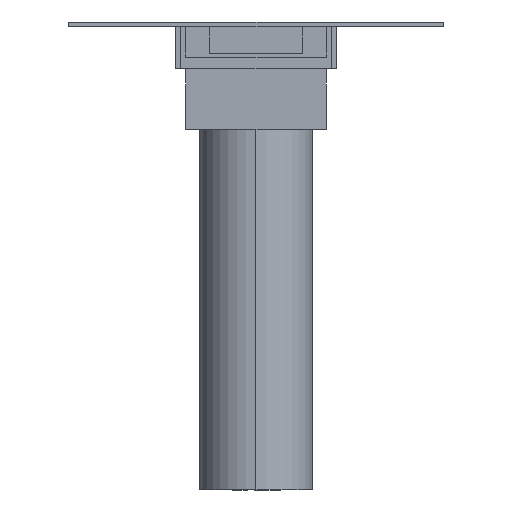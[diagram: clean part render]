
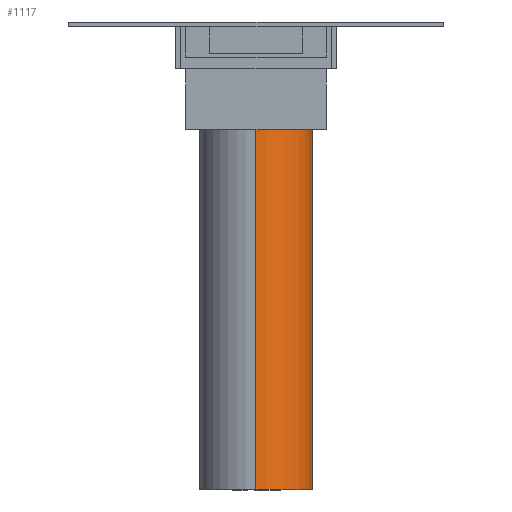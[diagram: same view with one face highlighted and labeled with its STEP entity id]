
A CAD part, left-side view. The second image highlights one B-rep face of the part: STEP entity #1117.
In plain terms, the highlighted cylindrical face has radius 24.15 mm (diameter 48.3 mm), a partial arc.
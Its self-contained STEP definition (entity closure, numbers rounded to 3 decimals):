
#97=FACE_OUTER_BOUND('',#169,.T.);
#169=EDGE_LOOP('',(#797,#798,#799,#800));
#241=LINE('',#1630,#381);
#242=LINE('',#1633,#382);
#381=VECTOR('',#1312,304.8);
#382=VECTOR('',#1315,304.8);
#521=CIRCLE('',#1219,24.15);
#522=CIRCLE('',#1220,24.15);
#537=VERTEX_POINT('',#1626);
#538=VERTEX_POINT('',#1627);
#539=VERTEX_POINT('',#1629);
#540=VERTEX_POINT('',#1631);
#641=EDGE_CURVE('',#537,#538,#521,.T.);
#642=EDGE_CURVE('',#539,#537,#241,.T.);
#643=EDGE_CURVE('',#540,#539,#522,.T.);
#644=EDGE_CURVE('',#538,#540,#242,.T.);
#797=ORIENTED_EDGE('',*,*,#641,.F.);
#798=ORIENTED_EDGE('',*,*,#642,.F.);
#799=ORIENTED_EDGE('',*,*,#643,.F.);
#800=ORIENTED_EDGE('',*,*,#644,.F.);
#1109=CYLINDRICAL_SURFACE('',#1218,24.15);
#1117=ADVANCED_FACE('',(#97),#1109,.T.);
#1218=AXIS2_PLACEMENT_3D('',#1625,#1308,#1309);
#1219=AXIS2_PLACEMENT_3D('',#1628,#1310,#1311);
#1220=AXIS2_PLACEMENT_3D('',#1632,#1313,#1314);
#1308=DIRECTION('center_axis',(0.,0.,1.));
#1309=DIRECTION('ref_axis',(-1.,0.,0.));
#1310=DIRECTION('center_axis',(0.,0.,1.));
#1311=DIRECTION('ref_axis',(-1.,0.,0.));
#1312=DIRECTION('',(0.,0.,1.));
#1313=DIRECTION('center_axis',(0.,0.,-1.));
#1314=DIRECTION('ref_axis',(-1.,0.,0.));
#1315=DIRECTION('',(0.,0.,-1.));
#1625=CARTESIAN_POINT('Origin',(0.,0.,
-200.));
#1626=CARTESIAN_POINT('',(-24.15,0.,-46.));
#1627=CARTESIAN_POINT('',(24.15,0.,-46.));
#1628=CARTESIAN_POINT('Origin',(0.,0.,
-46.));
#1629=CARTESIAN_POINT('',(-24.15,0.,-200.));
#1630=CARTESIAN_POINT('',(-24.15,0.,-200.));
#1631=CARTESIAN_POINT('',(24.15,0.,-200.));
#1632=CARTESIAN_POINT('Origin',(0.,0.,
-200.));
#1633=CARTESIAN_POINT('',(24.15,0.,-46.));
